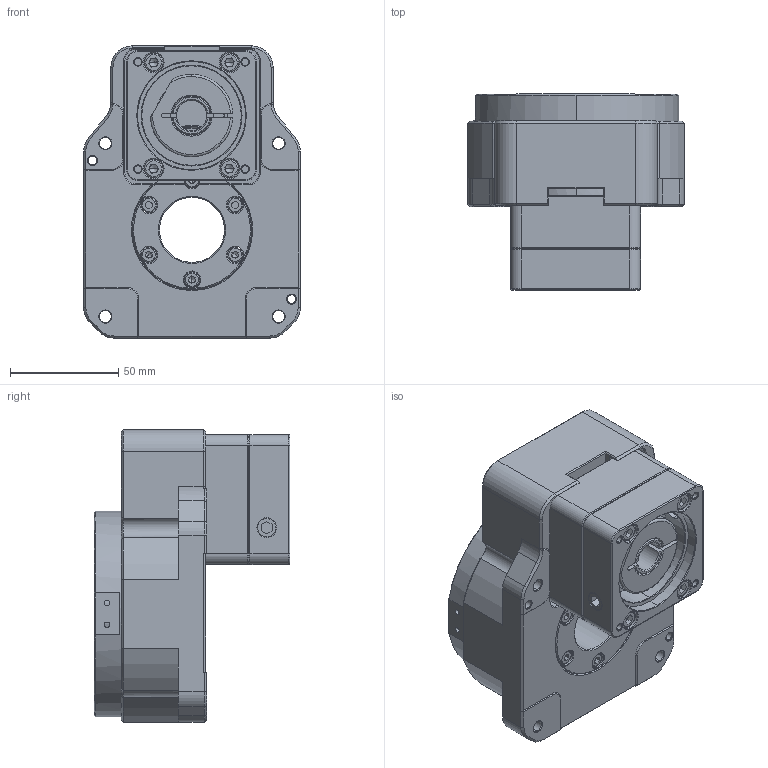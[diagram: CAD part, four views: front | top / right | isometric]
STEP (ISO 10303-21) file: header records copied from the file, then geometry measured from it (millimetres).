
FILE_DESCRIPTION (( 'STEP AP203' ), '1' );
FILE_NAME ('GSB100-08K-SV.STEP', '2017-09-15T08:41:10', ( 'Microsoft' ), ( 'Microsoft' ), 'SwSTEP 2.0', 'SolidWorks 2016', '' );
FILE_SCHEMA (( 'CONFIG_CONTROL_DESIGN' ));
Length unit declared in the file: millimetre
Products named in the file (1): GSB100-08K-SV
Bounding box: 100 x 90.5 x 135 mm (x, y, z)
Surface area: 81013.9 mm2 (no closed solid volume)
Topology: 0 solids, 26 shells, 568 faces, 1648 edges, 1055 vertices
Faces by surface type: plane 201, cylinder 160, cone 156, torus 46, bspline 5
Entity records: 19528 total; most frequent: CARTESIAN_POINT 4481, DIRECTION 3327, ORIENTED_EDGE 2806, EDGE_CURVE 1630, AXIS2_PLACEMENT_3D 1254, VERTEX_POINT 1055, LINE 819, VECTOR 819
